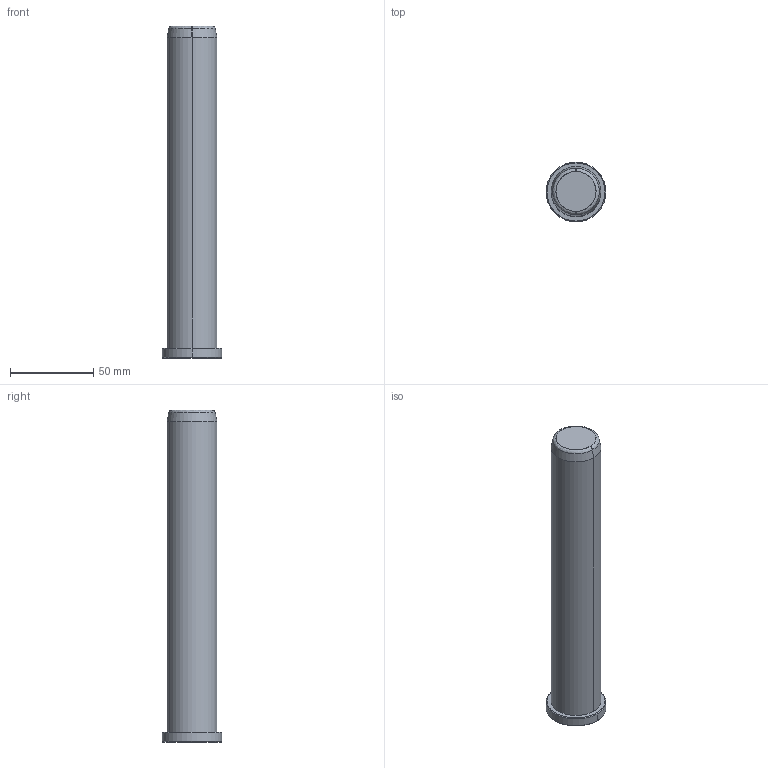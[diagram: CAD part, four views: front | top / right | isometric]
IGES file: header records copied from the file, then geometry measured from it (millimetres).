
Start section: START RECORD GO HERE.
Global section: file name: B81830200.igs; native system: DASSAULT SYSTEMES CATIA V5 R20 - www.3ds.com; preprocessor: CATIA Version 5 Release 20 ; author: Utente; organization: NB04-ASUS; date: 20200419.172037; units: millimetre
Bounding box: 36 x 36 x 200 mm (x, y, z)
Surface area: 20752.4 mm2 (no closed solid volume)
Topology: 0 solids, 0 shells, 17 faces, 68 edges, 68 vertices
Faces by surface type: revolution 14, plane 3
